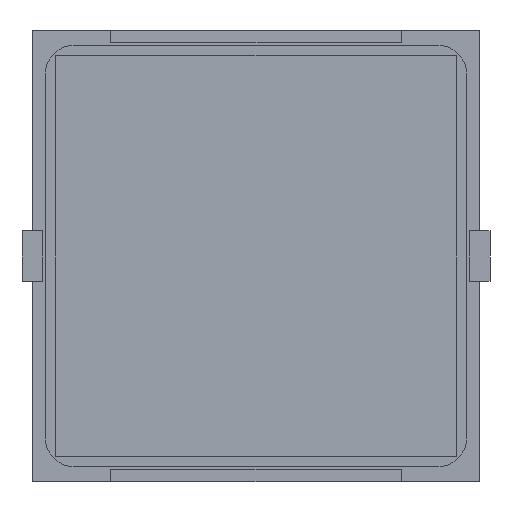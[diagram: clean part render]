
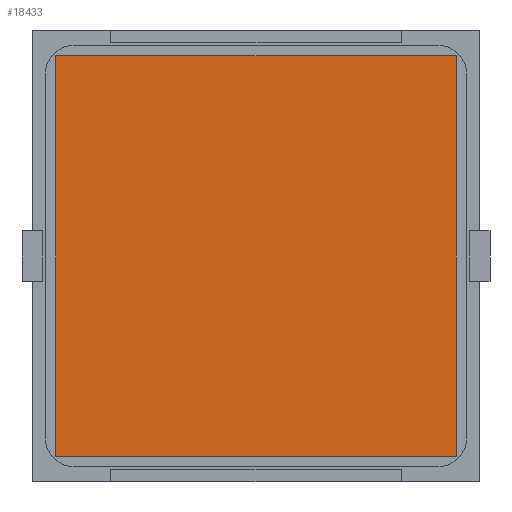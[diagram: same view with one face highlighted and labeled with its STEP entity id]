
A CAD part, front view. The second image highlights one B-rep face of the part: STEP entity #18433.
In plain terms, the highlighted planar face has unit normal (0, -1, 0).
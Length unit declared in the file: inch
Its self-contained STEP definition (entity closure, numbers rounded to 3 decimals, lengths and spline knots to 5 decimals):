
#1181 = LINE ( 'NONE', #2992, #7912 ) ;
#1833 = DIRECTION ( 'NONE',  ( 1., 0., 0. ) ) ;
#2540 = PLANE ( 'NONE',  #3325 ) ;
#2992 = CARTESIAN_POINT ( 'NONE',  ( -0.7874, -0.005, -0.7874 ) ) ;
#3325 = AXIS2_PLACEMENT_3D ( 'NONE', #18553, #13457, #18787 ) ;
#3666 = EDGE_LOOP ( 'NONE', ( #4549, #7570, #17090, #9698 ) ) ;
#4061 = VECTOR ( 'NONE', #19893, 39.37008 ) ;
#4549 = ORIENTED_EDGE ( 'NONE', *, *, #9190, .F. ) ;
#5288 = CARTESIAN_POINT ( 'NONE',  ( 0.7874, -0.005, -0.7874 ) ) ;
#7570 = ORIENTED_EDGE ( 'NONE', *, *, #20030, .F. ) ;
#7912 = VECTOR ( 'NONE', #8028, 39.37008 ) ;
#7958 = LINE ( 'NONE', #14638, #4061 ) ;
#8028 = DIRECTION ( 'NONE',  ( -1., 0., 0. ) ) ;
#9190 = EDGE_CURVE ( 'NONE', #9949, #20015, #14607, .T. ) ;
#9698 = ORIENTED_EDGE ( 'NONE', *, *, #20455, .F. ) ;
#9949 = VERTEX_POINT ( 'NONE', #15935 ) ;
#10091 = VECTOR ( 'NONE', #1833, 39.37008 ) ;
#13457 = DIRECTION ( 'NONE',  ( 0., 1., 0. ) ) ;
#14607 = LINE ( 'NONE', #14704, #15874 ) ;
#14638 = CARTESIAN_POINT ( 'NONE',  ( 0.7874, -0.005, -0.7874 ) ) ;
#14704 = CARTESIAN_POINT ( 'NONE',  ( -0.7874, -0.005, -0.7874 ) ) ;
#15874 = VECTOR ( 'NONE', #21520, 39.37008 ) ;
#15935 = CARTESIAN_POINT ( 'NONE',  ( -0.7874, -0.005, -0.7874 ) ) ;
#16247 = FACE_OUTER_BOUND ( 'NONE', #3666, .T. ) ;
#16349 = CARTESIAN_POINT ( 'NONE',  ( 0.7874, -0.005, 0.7874 ) ) ;
#17090 = ORIENTED_EDGE ( 'NONE', *, *, #18864, .F. ) ;
#18433 = ADVANCED_FACE ( 'NONE', ( #16247 ), #2540, .F. ) ;
#18553 = CARTESIAN_POINT ( 'NONE',  ( -0.7874, -0.005, 0.7874 ) ) ;
#18787 = DIRECTION ( 'NONE',  ( 0., 0., 1. ) ) ;
#18864 = EDGE_CURVE ( 'NONE', #21663, #18917, #7958, .T. ) ;
#18917 = VERTEX_POINT ( 'NONE', #5288 ) ;
#19306 = CARTESIAN_POINT ( 'NONE',  ( -0.7874, -0.005, 0.7874 ) ) ;
#19893 = DIRECTION ( 'NONE',  ( 0., 0., -1. ) ) ;
#20015 = VERTEX_POINT ( 'NONE', #21514 ) ;
#20030 = EDGE_CURVE ( 'NONE', #18917, #9949, #1181, .T. ) ;
#20455 = EDGE_CURVE ( 'NONE', #20015, #21663, #20995, .T. ) ;
#20995 = LINE ( 'NONE', #19306, #10091 ) ;
#21514 = CARTESIAN_POINT ( 'NONE',  ( -0.7874, -0.005, 0.7874 ) ) ;
#21520 = DIRECTION ( 'NONE',  ( 0., 0., 1. ) ) ;
#21663 = VERTEX_POINT ( 'NONE', #16349 ) ;
